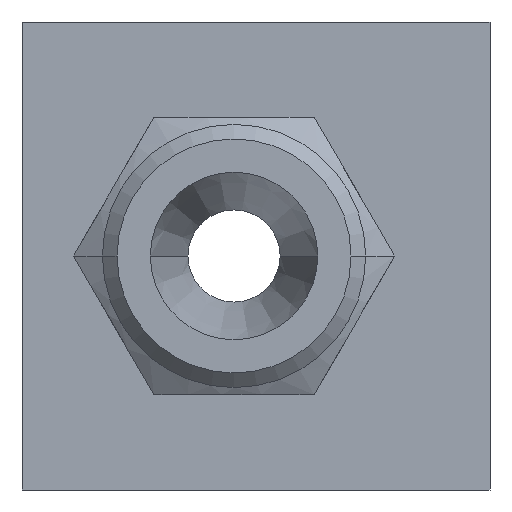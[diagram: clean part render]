
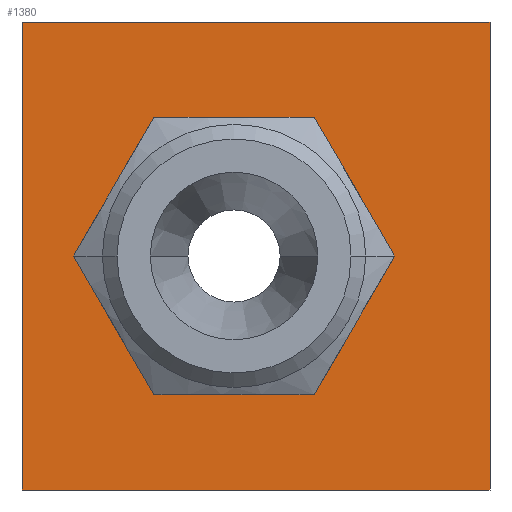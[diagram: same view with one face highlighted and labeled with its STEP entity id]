
A CAD part, left-side view. The second image highlights one B-rep face of the part: STEP entity #1380.
In plain terms, the highlighted planar face has unit normal (-1, 0, 0) as drawn and (0, 1, 0) by its records, which use the part's own axes.
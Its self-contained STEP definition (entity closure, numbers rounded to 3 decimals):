
#1101 = EDGE_CURVE ( 'NONE', #1102, #1103, #5641, .T. ) ;
#1102 = VERTEX_POINT ( 'NONE', #5636 ) ;
#1103 = VERTEX_POINT ( 'NONE', #5635 ) ;
#1247 = VERTEX_POINT ( 'NONE', #6021 ) ;
#1266 = EDGE_CURVE ( 'NONE', #1247, #1358, #6043, .T. ) ;
#1281 = ORIENTED_EDGE ( 'NONE', *, *, #1282, .F. ) ;
#1282 = EDGE_CURVE ( 'NONE', #1375, #1334, #5819, .T. ) ;
#1283 = EDGE_LOOP ( 'NONE', ( #1336, #1363 ) ) ;
#1333 = EDGE_CURVE ( 'NONE', #1334, #1358, #6211, .T. ) ;
#1334 = VERTEX_POINT ( 'NONE', #6203 ) ;
#1335 = ORIENTED_EDGE ( 'NONE', *, *, #1348, .T. ) ;
#1336 = ORIENTED_EDGE ( 'NONE', *, *, #1101, .F. ) ;
#1348 = EDGE_CURVE ( 'NONE', #1375, #1247, #6239, .T. ) ;
#1355 = EDGE_LOOP ( 'NONE', ( #1367, #1360, #1281, #1335 ) ) ;
#1358 = VERTEX_POINT ( 'NONE', #6229 ) ;
#1360 = ORIENTED_EDGE ( 'NONE', *, *, #1333, .F. ) ;
#1363 = ORIENTED_EDGE ( 'NONE', *, *, #1364, .F. ) ;
#1364 = EDGE_CURVE ( 'NONE', #1103, #1102, #6224, .T. ) ;
#1367 = ORIENTED_EDGE ( 'NONE', *, *, #1266, .T. ) ;
#1375 = VERTEX_POINT ( 'NONE', #6259 ) ;
#1380 = ADVANCED_FACE ( 'NONE', ( #6322, #6321 ), #6320, .F. ) ;
#5635 = CARTESIAN_POINT ( 'NONE',  ( 0., 16., 5.5 ) ) ;
#5636 = CARTESIAN_POINT ( 'NONE',  ( 0., 16., 23.5 ) ) ;
#5637 = DIRECTION ( 'NONE',  ( 0., 0., 1. ) ) ;
#5638 = DIRECTION ( 'NONE',  ( 0., 1., 0. ) ) ;
#5639 = CARTESIAN_POINT ( 'NONE',  ( 0., 16., 14.5 ) ) ;
#5640 = AXIS2_PLACEMENT_3D ( 'NONE', #5639, #5638, #5637 ) ;
#5641 = CIRCLE ( 'NONE', #5640, 9. ) ;
#5815 = DIRECTION ( 'NONE',  ( -1., 0., 0. ) ) ;
#5816 = VECTOR ( 'NONE', #5815, 1000. ) ;
#5817 = CARTESIAN_POINT ( 'NONE',  ( 16., 16., 32. ) ) ;
#5819 = LINE ( 'NONE', #5817, #5816 ) ;
#6021 = CARTESIAN_POINT ( 'NONE',  ( 16., 16., 0. ) ) ;
#6040 = DIRECTION ( 'NONE',  ( -1., 0., 0. ) ) ;
#6041 = VECTOR ( 'NONE', #6040, 1000. ) ;
#6042 = CARTESIAN_POINT ( 'NONE',  ( 16., 16., 0. ) ) ;
#6043 = LINE ( 'NONE', #6042, #6041 ) ;
#6203 = CARTESIAN_POINT ( 'NONE',  ( -16., 16., 32. ) ) ;
#6204 = DIRECTION ( 'NONE',  ( 0., 0., -1. ) ) ;
#6205 = VECTOR ( 'NONE', #6204, 1000. ) ;
#6206 = CARTESIAN_POINT ( 'NONE',  ( -16., 16., 32. ) ) ;
#6211 = LINE ( 'NONE', #6206, #6205 ) ;
#6222 = CARTESIAN_POINT ( 'NONE',  ( 0., 16., 14.5 ) ) ;
#6223 = AXIS2_PLACEMENT_3D ( 'NONE', #6222, #6290, #6289 ) ;
#6224 = CIRCLE ( 'NONE', #6223, 9. ) ;
#6229 = CARTESIAN_POINT ( 'NONE',  ( -16., 16., 0. ) ) ;
#6236 = DIRECTION ( 'NONE',  ( 0., 0., -1. ) ) ;
#6237 = VECTOR ( 'NONE', #6236, 1000. ) ;
#6238 = CARTESIAN_POINT ( 'NONE',  ( 16., 16., 32. ) ) ;
#6239 = LINE ( 'NONE', #6238, #6237 ) ;
#6259 = CARTESIAN_POINT ( 'NONE',  ( 16., 16., 32. ) ) ;
#6289 = DIRECTION ( 'NONE',  ( 0., 0., 1. ) ) ;
#6290 = DIRECTION ( 'NONE',  ( 0., 1., 0. ) ) ;
#6316 = DIRECTION ( 'NONE',  ( 0., 0., -1. ) ) ;
#6317 = DIRECTION ( 'NONE',  ( 0., -1., 0. ) ) ;
#6318 = CARTESIAN_POINT ( 'NONE',  ( 16., 16., 32. ) ) ;
#6319 = AXIS2_PLACEMENT_3D ( 'NONE', #6318, #6317, #6316 ) ;
#6320 = PLANE ( 'NONE',  #6319 ) ;
#6321 = FACE_OUTER_BOUND ( 'NONE', #1355, .T. ) ;
#6322 = FACE_BOUND ( 'NONE', #1283, .T. ) ;
